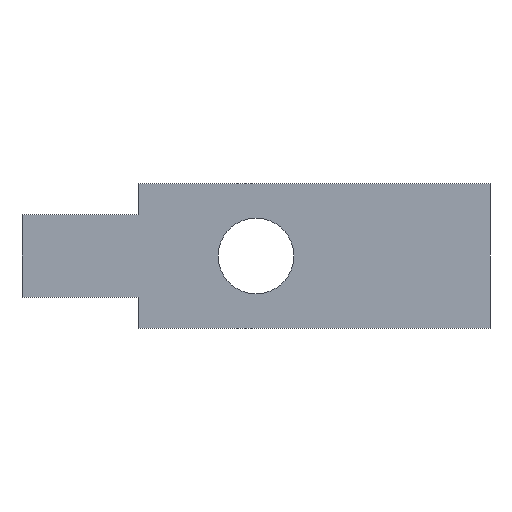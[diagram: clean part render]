
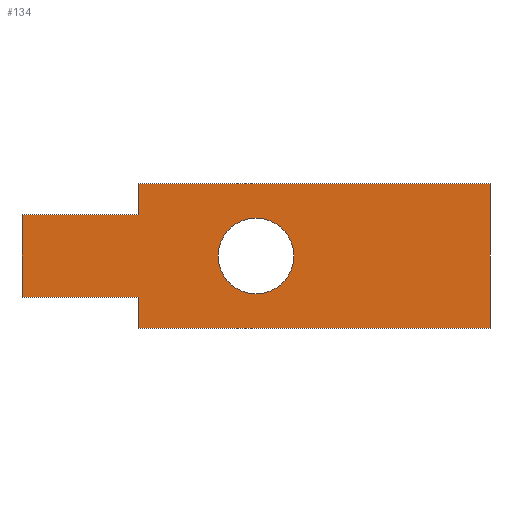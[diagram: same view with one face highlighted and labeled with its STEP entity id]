
A CAD part, front view. The second image highlights one B-rep face of the part: STEP entity #134.
In plain terms, the highlighted planar face has unit normal (0, -1, 0).
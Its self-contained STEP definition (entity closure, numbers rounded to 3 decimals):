
#3 = VERTEX_POINT ( 'NONE', #299 ) ;
#12 = ORIENTED_EDGE ( 'NONE', *, *, #30, .F. ) ;
#22 = DIRECTION ( 'NONE',  ( 0., 0., 1. ) ) ;
#24 = CARTESIAN_POINT ( 'NONE',  ( 31.5, 0., -6.5 ) ) ;
#27 = EDGE_LOOP ( 'NONE', ( #210, #12, #158, #127, #319, #69, #33, #200 ) ) ;
#30 = EDGE_CURVE ( 'NONE', #305, #101, #82, .T. ) ;
#31 = CARTESIAN_POINT ( 'NONE',  ( -10.5, 0., 3.7 ) ) ;
#33 = ORIENTED_EDGE ( 'NONE', *, *, #385, .F. ) ;
#35 = CARTESIAN_POINT ( 'NONE',  ( 0., 0., 3.7 ) ) ;
#45 = LINE ( 'NONE', #245, #387 ) ;
#64 = EDGE_CURVE ( 'NONE', #222, #132, #109, .T. ) ;
#69 = ORIENTED_EDGE ( 'NONE', *, *, #400, .F. ) ;
#71 = VECTOR ( 'NONE', #243, 1000. ) ;
#80 = CARTESIAN_POINT ( 'NONE',  ( -10.5, 0., -3.7 ) ) ;
#82 = LINE ( 'NONE', #317, #241 ) ;
#91 = PLANE ( 'NONE',  #201 ) ;
#96 = CARTESIAN_POINT ( 'NONE',  ( 0., 0., 6.5 ) ) ;
#101 = VERTEX_POINT ( 'NONE', #347 ) ;
#104 = EDGE_CURVE ( 'NONE', #101, #222, #147, .T. ) ;
#109 = LINE ( 'NONE', #111, #71 ) ;
#111 = CARTESIAN_POINT ( 'NONE',  ( -10.5, 0., 3.7 ) ) ;
#116 = VECTOR ( 'NONE', #214, 1000. ) ;
#121 = EDGE_CURVE ( 'NONE', #359, #179, #45, .T. ) ;
#127 = ORIENTED_EDGE ( 'NONE', *, *, #176, .F. ) ;
#132 = VERTEX_POINT ( 'NONE', #31 ) ;
#133 = DIRECTION ( 'NONE',  ( 0., 0., 1. ) ) ;
#134 = ADVANCED_FACE ( 'NONE', ( #154, #358 ), #91, .F. ) ;
#147 = LINE ( 'NONE', #80, #116 ) ;
#148 = DIRECTION ( 'NONE',  ( 0., 1., 0. ) ) ;
#149 = CARTESIAN_POINT ( 'NONE',  ( 0., 0., 3.7 ) ) ;
#150 = EDGE_CURVE ( 'NONE', #417, #305, #349, .T. ) ;
#154 = FACE_BOUND ( 'NONE', #376, .T. ) ;
#158 = ORIENTED_EDGE ( 'NONE', *, *, #150, .F. ) ;
#166 = LINE ( 'NONE', #369, #187 ) ;
#171 = CARTESIAN_POINT ( 'NONE',  ( 10.5, 0., 0. ) ) ;
#176 = EDGE_CURVE ( 'NONE', #179, #417, #416, .T. ) ;
#179 = VERTEX_POINT ( 'NONE', #324 ) ;
#187 = VECTOR ( 'NONE', #342, 1000. ) ;
#200 = ORIENTED_EDGE ( 'NONE', *, *, #64, .F. ) ;
#201 = AXIS2_PLACEMENT_3D ( 'NONE', #260, #148, #223 ) ;
#210 = ORIENTED_EDGE ( 'NONE', *, *, #104, .F. ) ;
#214 = DIRECTION ( 'NONE',  ( -1., 0., 0. ) ) ;
#219 = CARTESIAN_POINT ( 'NONE',  ( 0., 0., -6.5 ) ) ;
#221 = DIRECTION ( 'NONE',  ( 0., 0., -1. ) ) ;
#222 = VERTEX_POINT ( 'NONE', #323 ) ;
#223 = DIRECTION ( 'NONE',  ( 0., 0., 1. ) ) ;
#232 = VERTEX_POINT ( 'NONE', #149 ) ;
#241 = VECTOR ( 'NONE', #22, 1000. ) ;
#243 = DIRECTION ( 'NONE',  ( 0., 0., 1. ) ) ;
#245 = CARTESIAN_POINT ( 'NONE',  ( 0., 0., 6.5 ) ) ;
#250 = AXIS2_PLACEMENT_3D ( 'NONE', #171, #276, #365 ) ;
#256 = VECTOR ( 'NONE', #133, 1000. ) ;
#260 = CARTESIAN_POINT ( 'NONE',  ( 0., 0., 0. ) ) ;
#276 = DIRECTION ( 'NONE',  ( 0., 1., 0. ) ) ;
#295 = CARTESIAN_POINT ( 'NONE',  ( 31.5, 0., -6.5 ) ) ;
#299 = CARTESIAN_POINT ( 'NONE',  ( 10.5, 0., 3.4 ) ) ;
#300 = VECTOR ( 'NONE', #355, 1000. ) ;
#302 = CARTESIAN_POINT ( 'NONE',  ( 0., 0., -6.5 ) ) ;
#305 = VERTEX_POINT ( 'NONE', #302 ) ;
#306 = LINE ( 'NONE', #35, #256 ) ;
#317 = CARTESIAN_POINT ( 'NONE',  ( 0., 0., -3.7 ) ) ;
#319 = ORIENTED_EDGE ( 'NONE', *, *, #121, .F. ) ;
#323 = CARTESIAN_POINT ( 'NONE',  ( -10.5, 0., -3.7 ) ) ;
#324 = CARTESIAN_POINT ( 'NONE',  ( 31.5, 0., 6.5 ) ) ;
#342 = DIRECTION ( 'NONE',  ( 1., 0., 0. ) ) ;
#346 = DIRECTION ( 'NONE',  ( 1., 0., 0. ) ) ;
#347 = CARTESIAN_POINT ( 'NONE',  ( 0., 0., -3.7 ) ) ;
#349 = LINE ( 'NONE', #219, #300 ) ;
#355 = DIRECTION ( 'NONE',  ( -1., 0., 0. ) ) ;
#358 = FACE_OUTER_BOUND ( 'NONE', #27, .T. ) ;
#359 = VERTEX_POINT ( 'NONE', #96 ) ;
#360 = EDGE_CURVE ( 'NONE', #3, #3, #375, .T. ) ;
#365 = DIRECTION ( 'NONE',  ( 0., 0., 1. ) ) ;
#369 = CARTESIAN_POINT ( 'NONE',  ( -10.5, 0., 3.7 ) ) ;
#371 = ORIENTED_EDGE ( 'NONE', *, *, #360, .T. ) ;
#375 = CIRCLE ( 'NONE', #250, 3.4 ) ;
#376 = EDGE_LOOP ( 'NONE', ( #371 ) ) ;
#385 = EDGE_CURVE ( 'NONE', #132, #232, #166, .T. ) ;
#387 = VECTOR ( 'NONE', #346, 1000. ) ;
#400 = EDGE_CURVE ( 'NONE', #232, #359, #306, .T. ) ;
#408 = VECTOR ( 'NONE', #221, 1000. ) ;
#416 = LINE ( 'NONE', #295, #408 ) ;
#417 = VERTEX_POINT ( 'NONE', #24 ) ;
